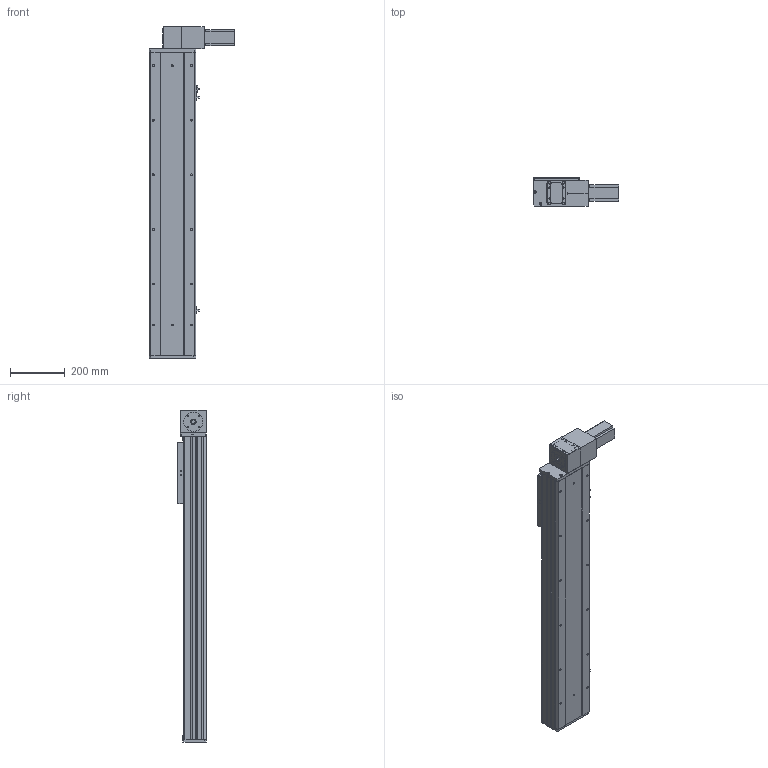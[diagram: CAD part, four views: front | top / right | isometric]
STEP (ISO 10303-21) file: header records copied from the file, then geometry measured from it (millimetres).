
FILE_DESCRIPTION (( 'STEP AP203' ), '1' );
FILE_NAME ('Y170CB-D105-S800-BD-P400W.STEP', '2020-02-20T08:28:11', ( '微软用户' ), ( '微软中国' ), 'SwSTEP 2.0', 'SolidWorks 2017', '' );
FILE_SCHEMA (( 'CONFIG_CONTROL_DESIGN' ));
Length unit declared in the file: millimetre
Products named in the file (16): 70CB-耜裔啣-; Y1埴倛裔; 70CB-掛极-; 70B喘謫眊----; --70CB --喘謫眊楊擘啣-; 70C--詩湍揤踡え-; 0B薊粣ん眊-400W--; 70CB--耜裔; Y170CB-D105-S800-BD-P400W; 70C-雄赽釱-奻-; 0C--雄赽釱俋欶-170; 70CB-詩湍--; Y100-135俋离換覜ん--; B-源倛裔啣; Y170CB-陔俋离換覜結え---; san松下电机400不带刹车----
Assembly tree (19 placements, depth 2):
  Y170CB-D105-S800-BD-P400W
    B-源倛裔啣
    san松下电机400不带刹车----
    70CB-掛极-
    --70CB --喘謫眊楊擘啣-
    70CB-耜裔啣-  x2
    70C--詩湍揤踡え-  x2
    70CB--耜裔
    70C-雄赽釱-奻-
    0C--雄赽釱俋欶-170
    70CB-詩湍--
    Y100-135俋离換覜ん--  x3
    Y170CB-陔俋离換覜結え---
    Y1埴倛裔
    70B喘謫眊----
    0B薊粣ん眊-400W--
Bounding box: 313.5 x 107 x 1216 mm (x, y, z)
Volume: 6039416.7 mm3; surface area: 2029118.2 mm2
Topology: 19 solids, 19 shells, 912 faces, 2402 edges, 1592 vertices
Faces by surface type: cylinder 466, plane 422, cone 24
Entity records: 28427 total; most frequent: CARTESIAN_POINT 5266, DIRECTION 4623, ORIENTED_EDGE 4286, EDGE_CURVE 2143, AXIS2_PLACEMENT_3D 1701, VERTEX_POINT 1422, LINE 1221, VECTOR 1221
